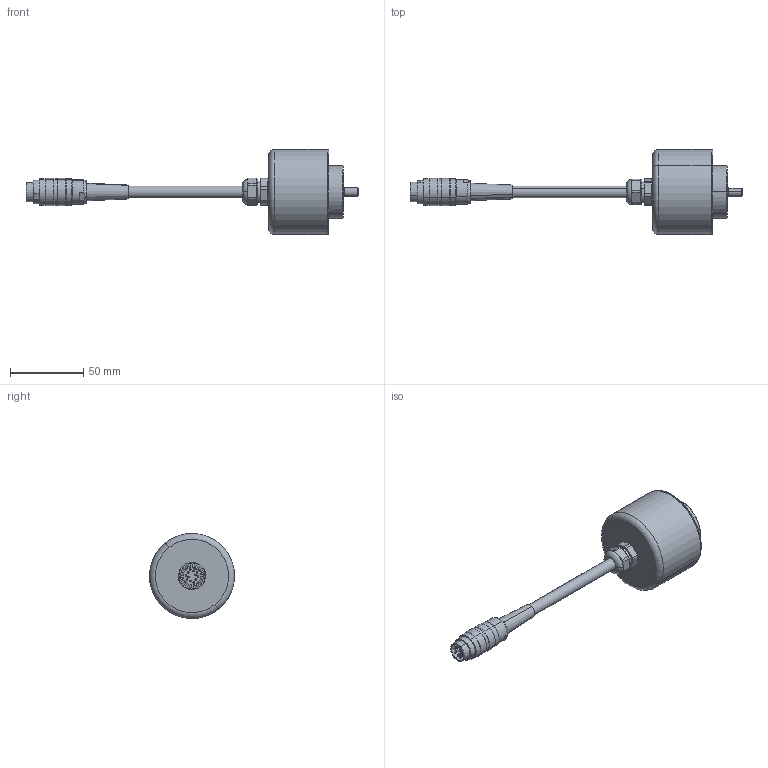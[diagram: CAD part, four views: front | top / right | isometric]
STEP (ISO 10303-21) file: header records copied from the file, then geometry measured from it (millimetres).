
FILE_DESCRIPTION (( 'STEP AP214' ), '1' );
FILE_NAME ('5805.11XH.XXXX.STEP', '2010-12-22T07:38:19', ( 'admin' ), ( 'Fritz Kübler GmbH' ), 'SwSTEP 2.0', 'SolidWorks 2009', '' );
FILE_SCHEMA (( 'AUTOMOTIVE_DESIGN' ));
Length unit declared in the file: millimetre
Products named in the file (1): 5805.11XH.XXXX
Bounding box: 226.45 x 58 x 58 mm (x, y, z)
Volume: 61980.7 mm3; surface area: 47193.9 mm2
Topology: 8 solids, 8 shells, 361 faces, 894 edges, 554 vertices
Faces by surface type: cylinder 147, plane 80, cone 74, sphere 32, torus 28
Entity records: 14898 total; most frequent: CARTESIAN_POINT 2384, DIRECTION 1952, ORIENTED_EDGE 1612, AXIS2_PLACEMENT_3D 832, EDGE_CURVE 806, VERTEX_POINT 512, CIRCLE 470, EDGE_LOOP 442
